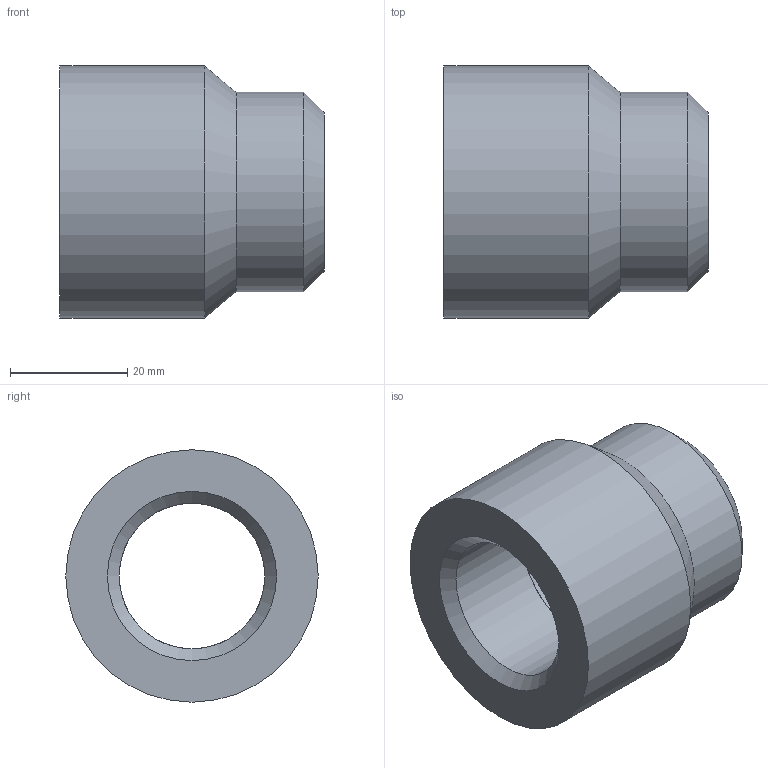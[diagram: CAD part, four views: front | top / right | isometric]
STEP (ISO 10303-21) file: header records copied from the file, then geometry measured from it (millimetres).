
FILE_DESCRIPTION(('TFLEX Exchange Step'),'2;1');
FILE_NAME('X2\0411043E0431044B0448043A0430\X0\ БПБ-М27-М01.stp', '2020-10-14T17:48:42+05:00',('Пользователь'),('Unknown organisation'),'TFLEX Exchange 2019.1','T-FLEX CAD','Unknown authorisation');
FILE_SCHEMA( ('AUTOMOTIVE_DESIGN { 1 0 10303 214 1 1 1 1 }') );
Length unit declared in the file: millimetre
Products named in the file (1): Бобышка БПБ-М27-М01
Bounding box: 45 x 43 x 43 mm (x, y, z)
Volume: 33132.9 mm3; surface area: 10358 mm2
Topology: 1 solids, 1 shells, 10 faces, 23 edges, 16 vertices
Faces by surface type: cylinder 4, plane 3, cone 3
Full cylindrical faces by diameter (mm): 24.8 x1, 24.835 x1, 34 x1, 43 x1
Entity records: 327 total; most frequent: DIRECTION 61, CARTESIAN_POINT 50, ORIENTED_EDGE 46, AXIS2_PLACEMENT_3D 27, EDGE_CURVE 23, VERTEX_POINT 16, CIRCLE 16, EDGE_LOOP 13
